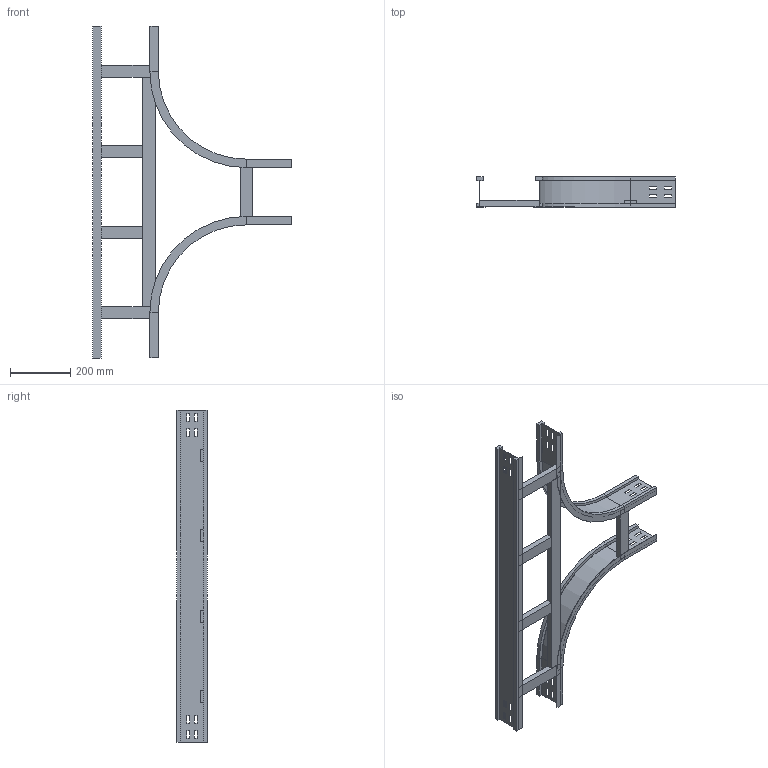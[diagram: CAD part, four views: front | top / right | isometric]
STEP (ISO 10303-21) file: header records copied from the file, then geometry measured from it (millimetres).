
FILE_DESCRIPTION (( 'STEP AP214' ), '1' );
FILE_NAME ('15S3D200.step', '2025-02-21T16:12:18', ( '' ), ( '' ), 'SwSTEP 2.0', 'SolidWorks 2023', '' );
FILE_SCHEMA (( 'AUTOMOTIVE_DESIGN' ));
Length unit declared in the file: millimetre
Products named in the file (6): TRAVERSINO_INTERMEDIO_R300+200; LONGH.RETT_H100_R300+200; TRAVERSINO_LONG._R300+200; TRAVERSINO_200; LONGH.INTERNO 90°_H100_R300; 15S3D200
Assembly tree (9 placements, depth 2):
  15S3D200
    LONGH.INTERNO 90°_H100_R300  x2
    LONGH.RETT_H100_R300+200
    TRAVERSINO_200  x3
    TRAVERSINO_LONG._R300+200
    TRAVERSINO_INTERMEDIO_R300+200  x2
Bounding box: 659 x 100 x 1100 mm (x, y, z)
Volume: 2741797.1 mm3; surface area: 992106.6 mm2
Topology: 9 solids, 9 shells, 222 faces, 564 edges, 360 vertices
Faces by surface type: plane 210, cylinder 12
Entity records: 4275 total; most frequent: CARTESIAN_POINT 718, ORIENTED_EDGE 696, DIRECTION 652, EDGE_CURVE 348, VECTOR 336, LINE 336, VERTEX_POINT 224, EDGE_LOOP 166
